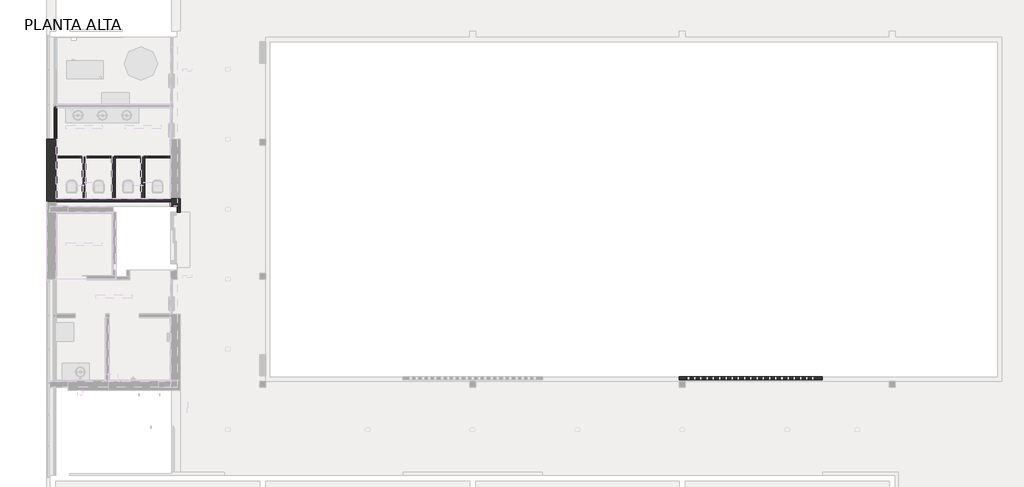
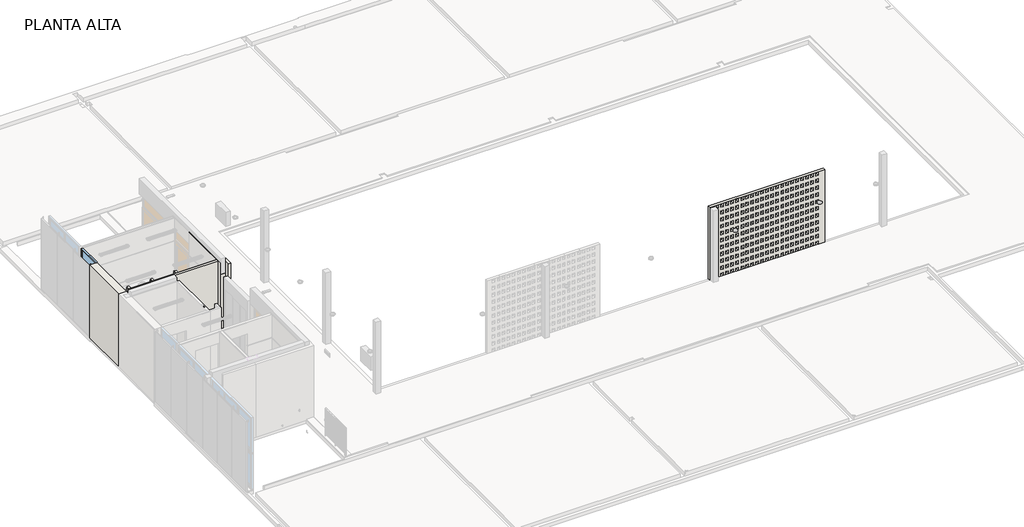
# One storey, part 4 of 14: 8 walls, 4 doors, 1 proxy, 1 window.
"""IFC4 building model written with IfcOpenShell, lengths in millimetres."""

from ifc_helpers import new_model, si_unit, frame, origin, place, context, project, spatial, polyline, outline, extrude, faceted_brep, transform, mapped, element, save
from components import a15_puerta_boxes_a15_puerta_boxes_85x150_d28bf8b2, a16_ventana_pc_1_hoja_a16_2_ventana_pc_1_hoja_105x310_39190f72

model = new_model("IFC4")

# Units and contexts
model_context = context("Model", 3, world=origin())
ifc_project = project(units=[si_unit("LENGTHUNIT", "METRE", prefix="MILLI")], contexts=[model_context])

# Site, building, storey
site = spatial("IfcSite", under=ifc_project)
building = spatial("IfcBuilding", under=site)
storey = spatial("IfcBuildingStorey", under=building, Name="PLANTA ALTA", Elevation=3310.0)

# Proxy
placement = place(None, origin())
element("IfcBuildingElementProxy", 1, Name="23-TEL-JUNTA 10x10", ObjectType="23-TEL-JUNTA 10x10", at=placement, inside=storey, context=model_context, shape_type="SweptSolid", body=[
    extrude(outline(polyline([(7148.7173694, 18270.2304035), (7158.7173694, 18270.2304035), (7158.7173694, 16310.2304035), (7148.7173694, 16310.2304035), (7148.7173694, 18270.2304035)])), frame((0.0, 0.0, 6400.0), z_axis=(0.0, 0.0, 1.0), x_axis=(1.0, 0.0, 0.0)), (0.0, 0.0, 1.0), 10.0),
    extrude(outline(polyline([(7153.7173694, 16320.2304035), (7153.7173694, 16310.2304035), (3398.7173694, 16310.2304035), (3408.7173694, 16320.2304035), (7153.7173694, 16320.2304035)])), frame((0.0, 0.0, 6400.0), z_axis=(0.0, 0.0, 1.0), x_axis=(1.0, 0.0, 0.0)), (0.0, 0.0, 1.0), 10.0),
])

# Doors
a15_puerta_boxes_a15_puerta_boxes_85x150_shape = a15_puerta_boxes_a15_puerta_boxes_85x150_d28bf8b2(model_context)
element("IfcDoor", 2, ObjectType="A15 Puerta boxes : A15 Puerta boxes 85x150", at=placement, inside=storey, context=model_context, shape_type="MappedRepresentation", body=[
    mapped(a15_puerta_boxes_a15_puerta_boxes_85x150_shape, transform((4796.2173694, 17682.7304035, 3610.0), x_axis=(1.0, 0.0, 0.0), y_axis=(0.0, 1.0, 0.0), z_axis=(0.0, 0.0, 1.0))),
])
element("IfcDoor", 3, ObjectType="A15 Puerta boxes : A15 Puerta boxes 85x150", at=placement, inside=storey, context=model_context, shape_type="MappedRepresentation", body=[
    mapped(a15_puerta_boxes_a15_puerta_boxes_85x150_shape, transform((5761.2173694, 17682.7304035, 3610.0), x_axis=(1.0, 0.0, 0.0), y_axis=(0.0, 1.0, 0.0), z_axis=(0.0, 0.0, 1.0))),
])
element("IfcDoor", 4, ObjectType="A15 Puerta boxes : A15 Puerta boxes 85x150", at=placement, inside=storey, context=model_context, shape_type="MappedRepresentation", body=[
    mapped(a15_puerta_boxes_a15_puerta_boxes_85x150_shape, transform((6726.2173694, 17682.7304035, 3610.0), x_axis=(1.0, 0.0, 0.0), y_axis=(0.0, 1.0, 0.0), z_axis=(0.0, 0.0, 1.0))),
])
element("IfcDoor", 5, ObjectType="A15 Puerta boxes : A15 Puerta boxes 85x150", at=placement, inside=storey, context=model_context, shape_type="MappedRepresentation", body=[
    mapped(a15_puerta_boxes_a15_puerta_boxes_85x150_shape, transform((3831.2173694, 17682.7304035, 3610.0), x_axis=(1.0, 0.0, 0.0), y_axis=(0.0, 1.0, 0.0), z_axis=(0.0, 0.0, 1.0))),
])

# Walls
element("IfcWall", 6, ObjectType="MURO-EXT/INT-M1c-33cm-hceram210cm-PET-circulacion", at=placement, inside=storey, context=model_context, shape_type="Brep", body=[
    faceted_brep([(3078.7173694, 18270.2304035, 3260.0), (3078.7173694, 16220.2304035, 3260.0), (3078.7173694, 16220.2304035, 6400.0), (3078.7173694, 16220.2304035, 6410.0), (3078.7173694, 18270.2304035, 6410.0), (3408.7173694, 16220.2304035, 3260.0), (3408.7173694, 16320.2304035, 3260.0), (3408.7173694, 18270.2304035, 3260.0), (3408.7173694, 18270.2304035, 5410.0), (3408.7173694, 16320.2304035, 5410.0), (3408.7173694, 16310.3304035, 5410.0), (3408.7173694, 16310.3304035, 5413.3), (3408.7173694, 16320.2304035, 5413.3), (3408.7173694, 18270.2304035, 5413.3), (3408.7173694, 18270.2304035, 6400.0), (3408.7173694, 16320.2304035, 6400.0), (3408.7173694, 16310.2304035, 6400.0), (3408.7173694, 16310.2304035, 6410.0), (3408.7173694, 16220.2304035, 6410.0), (3128.7173694, 18270.2304035, 3260.0), (3403.7173694, 16220.2304035, 3260.0), (3088.7173694, 16220.2304035, 6410.0), (3403.7173694, 16220.2304035, 6410.0), (3398.7173694, 16310.2304035, 6410.0), (3398.7173694, 18270.2304035, 6410.0), (3398.7173694, 18270.2304035, 6400.0), (3398.8173694, 18270.2304035, 5413.3), (3398.8173694, 18270.2304035, 5410.0), (3398.8173694, 16310.3304035, 5410.0), (3398.7173694, 16310.2304035, 6400.0), (3398.8173694, 16310.3304035, 5413.3)], [[[0, 1, 2, 3, 4]], [[5, 6, 7, 8, 9, 10, 11, 12, 13, 14, 15, 16, 17, 18]], [[1, 0, 19, 7, 6, 5, 20]], [[4, 3, 21, 22, 18, 17, 23, 24]], [[0, 4, 24, 25, 14, 13, 26, 27, 8, 7, 19]], [[3, 2, 1, 20, 5, 18, 22, 21]], [[8, 27, 28, 10, 9]], [[25, 29, 16, 15, 14]], [[29, 25, 24, 23]], [[29, 23, 17, 16]], [[28, 27, 26, 30]], [[30, 26, 13, 12, 11]], [[28, 30, 11, 10]]]),
])
element("IfcWall", 7, ObjectType="MURO-INT/INT-M22c-12cm-hceram210cm-PET", at=placement, inside=storey, context=model_context, shape_type="SweptSolid", body=[
    extrude(outline(polyline([(3713.8731174, 18890.2304035), (3713.8731174, 19310.2304035), (3833.8731174, 19310.2304035), (3833.8731174, 18890.2304035), (3713.8731174, 18890.2304035)])), frame((0.0, 0.0, 3270.0), z_axis=(0.0, 0.0, 1.0), x_axis=(1.0, 0.0, 0.0)), (0.0, 0.0, 1.0), 810.0),
])
element("IfcWall", 8, ObjectType="MURO-INT/INT-M22c-12cm-hceram210cm-PET", at=placement, inside=storey, context=model_context, shape_type="Brep", body=[
    faceted_brep([(4373.7173694, 16320.2304035, 3260.0), (4373.7173694, 17720.2304035, 3260.0), (4373.7173694, 17720.2304035, 3310.0), (4373.7173694, 17720.2304035, 5401.0), (4373.7173694, 17720.2304035, 5401.5), (4373.7173694, 17720.2304035, 5410.0), (4373.7173694, 16320.2304035, 5410.0), (4373.7173694, 16320.2304035, 5401.0), (4253.7173694, 17720.2304035, 3260.0), (4253.7173694, 16320.2304035, 3260.0), (4253.7173694, 16320.2304035, 5401.0), (4253.7173694, 16320.2304035, 5410.0), (4253.7173694, 17720.2304035, 5410.0), (4253.7173694, 17720.2304035, 5401.5), (4253.7173694, 17720.2304035, 5401.0), (4253.7173694, 17720.2304035, 3310.0), (4364.7173694, 16320.2304035, 5410.5), (4364.7173694, 17711.2304035, 5410.5), (4262.7173694, 17711.2304035, 5410.5), (4262.7173694, 16320.2304035, 5410.5), (4364.7173694, 16320.2304035, 5410.0), (4262.7173694, 16320.2304035, 5410.0), (4364.7173694, 17711.2304035, 5410.0), (4262.7173694, 17711.2304035, 5410.0)], [[[0, 1, 2, 3, 4, 5, 6, 7]], [[8, 9, 10, 11, 12, 13, 14, 15]], [[1, 0, 9, 8]], [[1, 8, 15, 14, 13, 12, 5, 4, 3, 2]], [[16, 17, 18, 19]], [[9, 0, 7, 6, 20, 16, 19, 21, 11, 10]], [[20, 22, 17, 16]], [[22, 20, 6, 5, 12, 11, 21, 23]], [[22, 23, 18, 17]], [[23, 21, 19, 18]]]),
])
element("IfcWall", 9, ObjectType="MURO-INT/INT-M22c-12cm-hceram210cm-PET", at=placement, inside=storey, context=model_context, shape_type="Brep", body=[
    faceted_brep([(5338.7173694, 16320.2304035, 3260.0), (5338.7173694, 17720.2304035, 3260.0), (5338.7173694, 17720.2304035, 3310.0), (5338.7173694, 17720.2304035, 5401.0), (5338.7173694, 17720.2304035, 5401.5), (5338.7173694, 17720.2304035, 5410.0), (5338.7173694, 16320.2304035, 5410.0), (5338.7173694, 16320.2304035, 5401.0), (5218.7173694, 17720.2304035, 3260.0), (5218.7173694, 16320.2304035, 3260.0), (5218.7173694, 16320.2304035, 5401.0), (5218.7173694, 16320.2304035, 5410.0), (5218.7173694, 17720.2304035, 5410.0), (5218.7173694, 17720.2304035, 5401.5), (5218.7173694, 17720.2304035, 5401.0), (5218.7173694, 17720.2304035, 3310.0), (5329.7173694, 16320.2304035, 5410.5), (5329.7173694, 17711.2304035, 5410.5), (5227.7173694, 17711.2304035, 5410.5), (5227.7173694, 16320.2304035, 5410.5), (5329.7173694, 16320.2304035, 5410.0), (5227.7173694, 16320.2304035, 5410.0), (5329.7173694, 17711.2304035, 5410.0), (5227.7173694, 17711.2304035, 5410.0)], [[[0, 1, 2, 3, 4, 5, 6, 7]], [[8, 9, 10, 11, 12, 13, 14, 15]], [[1, 0, 9, 8]], [[1, 8, 15, 14, 13, 12, 5, 4, 3, 2]], [[16, 17, 18, 19]], [[9, 0, 7, 6, 20, 16, 19, 21, 11, 10]], [[20, 22, 17, 16]], [[22, 20, 6, 5, 12, 11, 21, 23]], [[22, 23, 18, 17]], [[23, 21, 19, 18]]]),
])
element("IfcWall", 10, ObjectType="MURO-INT/INT-M22c-12cm-hceram210cm-PET", at=placement, inside=storey, context=model_context, shape_type="Brep", body=[
    faceted_brep([(6303.7173694, 16320.2304035, 3260.0), (6303.7173694, 17720.2304035, 3260.0), (6303.7173694, 17720.2304035, 3310.0), (6303.7173694, 17720.2304035, 5401.0), (6303.7173694, 17720.2304035, 5401.5), (6303.7173694, 17720.2304035, 5410.0), (6303.7173694, 16320.2304035, 5410.0), (6303.7173694, 16320.2304035, 5401.0), (6183.7173694, 17720.2304035, 3260.0), (6183.7173694, 16320.2304035, 3260.0), (6183.7173694, 16320.2304035, 5401.0), (6183.7173694, 16320.2304035, 5410.0), (6183.7173694, 17720.2304035, 5410.0), (6183.7173694, 17720.2304035, 5401.5), (6183.7173694, 17720.2304035, 5401.0), (6183.7173694, 17720.2304035, 3310.0), (6294.7173694, 16320.2304035, 5410.5), (6294.7173694, 17711.2304035, 5410.5), (6192.7173694, 17711.2304035, 5410.5), (6192.7173694, 16320.2304035, 5410.5), (6294.7173694, 16320.2304035, 5410.0), (6192.7173694, 16320.2304035, 5410.0), (6294.7173694, 17711.2304035, 5410.0), (6192.7173694, 17711.2304035, 5410.0)], [[[0, 1, 2, 3, 4, 5, 6, 7]], [[8, 9, 10, 11, 12, 13, 14, 15]], [[1, 0, 9, 8]], [[1, 8, 15, 14, 13, 12, 5, 4, 3, 2]], [[16, 17, 18, 19]], [[9, 0, 7, 6, 20, 16, 19, 21, 11, 10]], [[20, 22, 17, 16]], [[22, 20, 6, 5, 12, 11, 21, 23]], [[22, 23, 18, 17]], [[23, 21, 19, 18]]]),
])
element("IfcWall", 11, ObjectType="MURO-INT/INT-M22d-10cm-hceram210cm-PET", at=placement, inside=storey, context=model_context, shape_type="Brep", body=[
    faceted_brep([(7153.7173694, 16320.2304035, 3260.0), (6303.7173694, 16320.2304035, 3260.0), (6183.7173694, 16320.2304035, 3260.0), (5338.7173694, 16320.2304035, 3260.0), (5218.7173694, 16320.2304035, 3260.0), (4373.7173694, 16320.2304035, 3260.0), (4253.7173694, 16320.2304035, 3260.0), (3408.7173694, 16320.2304035, 3260.0), (3408.7173694, 16320.2304035, 5410.0), (4253.7173694, 16320.2304035, 5410.0), (4262.7173694, 16320.2304035, 5410.0), (4364.7173694, 16320.2304035, 5410.0), (4373.7173694, 16320.2304035, 5410.0), (5218.7173694, 16320.2304035, 5410.0), (5227.7173694, 16320.2304035, 5410.0), (5329.7173694, 16320.2304035, 5410.0), (5338.7173694, 16320.2304035, 5410.0), (6183.7173694, 16320.2304035, 5410.0), (6192.7173694, 16320.2304035, 5410.0), (6294.7173694, 16320.2304035, 5410.0), (6303.7173694, 16320.2304035, 5410.0), (7153.7173694, 16320.2304035, 5410.0), (3408.7173694, 16320.2304035, 6400.0), (7153.7173694, 16320.2304035, 6400.0), (7153.7173694, 16320.2304035, 5413.3), (3408.7173694, 16320.2304035, 5413.3), (3408.7173694, 16220.2304035, 3260.0), (7153.7173694, 16220.2304035, 3260.0), (7153.7173694, 16220.2304035, 6410.0), (3408.7173694, 16220.2304035, 6410.0), (7153.7173694, 16310.2304035, 6410.0), (3408.7173694, 16310.2304035, 6410.0), (7153.7173694, 16310.3304035, 5410.0), (7153.7173694, 16310.3304035, 5413.3), (7153.7173694, 16310.2304035, 6400.0), (3408.7173694, 16310.2304035, 6400.0), (3408.7173694, 16310.3304035, 5413.3), (3408.7173694, 16310.3304035, 5410.0)], [[[0, 1, 2, 3, 4, 5, 6, 7, 8, 9, 10, 11, 12, 13, 14, 15, 16, 17, 18, 19, 20, 21]], [[22, 23, 24, 25]], [[26, 27, 28, 29]], [[7, 6, 5, 4, 3, 2, 1, 0, 27, 26]], [[29, 28, 30, 31]], [[28, 27, 0, 21, 32, 33, 24, 23, 34, 30]], [[7, 26, 29, 31, 35, 22, 25, 36, 37, 8]], [[30, 34, 35, 31]], [[23, 22, 35, 34]], [[33, 36, 25, 24]], [[36, 33, 32, 37]], [[37, 32, 21, 20, 19, 18, 17, 16, 15, 14, 13, 12, 11, 10, 9, 8]]]),
])
element("IfcWall", 12, ObjectType="MURO-Ladrillo hormigón calado-10cm-PET", at=placement, inside=storey, context=model_context, shape_type="SweptSolid", body=[
    extrude(outline(polyline([(3260.0, 28588.7173693), (6410.0, 28588.7173693), (6410.0, 23888.7173694), (3260.0, 23888.7173694), (3260.0, 28588.7173693)]), holes=[polyline([(6400.0, 28228.7173696), (6400.0, 28328.7173699), (6260.0, 28328.7173699), (6260.0, 28228.7173696), (6400.0, 28228.7173696)]), polyline([(6400.0, 28028.7173694), (6400.0, 28128.7173696), (6260.0, 28128.7173696), (6260.0, 28028.7173694), (6400.0, 28028.7173694)]), polyline([(6400.0, 27823.7173694), (6400.0, 27923.7173697), (6260.0, 27923.7173697), (6260.0, 27823.7173694), (6400.0, 27823.7173694)]), polyline([(6400.0, 27623.7173692), (6400.0, 27723.7173694), (6260.0, 27723.7173694), (6260.0, 27623.7173692), (6400.0, 27623.7173692)]), polyline([(6400.0, 27413.7173694), (6400.0, 27513.7173697), (6260.0, 27513.7173697), (6260.0, 27413.7173694), (6400.0, 27413.7173694)]), polyline([(6400.0, 27213.7173692), (6400.0, 27313.7173694), (6260.0, 27313.7173694), (6260.0, 27213.7173692), (6400.0, 27213.7173692)]), polyline([(6400.0, 27008.7173692), (6400.0, 27108.7173694), (6260.0, 27108.7173694), (6260.0, 27008.7173692), (6400.0, 27008.7173692)]), polyline([(6400.0, 26808.717369), (6400.0, 26908.7173692), (6260.0, 26908.7173692), (6260.0, 26808.717369), (6400.0, 26808.717369)]), polyline([(6400.0, 26593.7173695), (6400.0, 26693.7173697), (6260.0, 26693.7173697), (6260.0, 26593.7173695), (6400.0, 26593.7173695)]), polyline([(6400.0, 26393.7173692), (6400.0, 26493.7173695), (6260.0, 26493.7173695), (6260.0, 26393.7173692), (6400.0, 26393.7173692)]), polyline([(6400.0, 26188.7173692), (6400.0, 26288.7173695), (6260.0, 26288.7173695), (6260.0, 26188.7173692), (6400.0, 26188.7173692)]), polyline([(6400.0, 25988.717369), (6400.0, 26088.7173692), (6260.0, 26088.7173692), (6260.0, 25988.717369), (6400.0, 25988.717369)]), polyline([(6400.0, 25778.7173693), (6400.0, 25878.7173695), (6260.0, 25878.7173695), (6260.0, 25778.7173693), (6400.0, 25778.7173693)]), polyline([(6400.0, 25578.717369), (6400.0, 25678.7173693), (6260.0, 25678.7173693), (6260.0, 25578.717369), (6400.0, 25578.717369)]), polyline([(6400.0, 25373.717369), (6400.0, 25473.7173693), (6260.0, 25473.7173693), (6260.0, 25373.717369), (6400.0, 25373.717369)]), polyline([(6400.0, 25173.7173688), (6400.0, 25273.717369), (6260.0, 25273.717369), (6260.0, 25173.7173688), (6400.0, 25173.7173688)]), polyline([(6400.0, 24953.7173695), (6400.0, 25053.7173697), (6260.0, 25053.7173697), (6260.0, 24953.7173695), (6400.0, 24953.7173695)]), polyline([(6400.0, 24753.7173693), (6400.0, 24853.7173695), (6260.0, 24853.7173695), (6260.0, 24753.7173693), (6400.0, 24753.7173693)]), polyline([(6400.0, 24548.7173693), (6400.0, 24648.7173695), (6260.0, 24648.7173695), (6260.0, 24548.7173693), (6400.0, 24548.7173693)]), polyline([(6400.0, 24348.7173691), (6400.0, 24448.7173693), (6260.0, 24448.7173693), (6260.0, 24348.7173691), (6400.0, 24348.7173691)]), polyline([(6400.0, 24138.7173693), (6400.0, 24238.7173695), (6260.0, 24238.7173695), (6260.0, 24138.7173693), (6400.0, 24138.7173693)]), polyline([(6100.0, 28228.7173696), (6100.0, 28328.7173699), (5960.0, 28328.7173699), (5960.0, 28228.7173696), (6100.0, 28228.7173696)]), polyline([(6100.0, 28028.7173694), (6100.0, 28128.7173696), (5960.0, 28128.7173696), (5960.0, 28028.7173694), (6100.0, 28028.7173694)]), polyline([(6100.0, 27823.7173694), (6100.0, 27923.7173697), (5960.0, 27923.7173697), (5960.0, 27823.7173694), (6100.0, 27823.7173694)]), polyline([(6100.0, 27623.7173692), (6100.0, 27723.7173694), (5960.0, 27723.7173694), (5960.0, 27623.7173692), (6100.0, 27623.7173692)]), polyline([(6100.0, 27413.7173694), (6100.0, 27513.7173697), (5960.0, 27513.7173697), (5960.0, 27413.7173694), (6100.0, 27413.7173694)]), polyline([(6100.0, 27213.7173692), (6100.0, 27313.7173694), (5960.0, 27313.7173694), (5960.0, 27213.7173692), (6100.0, 27213.7173692)]), polyline([(6100.0, 27008.7173692), (6100.0, 27108.7173694), (5960.0, 27108.7173694), (5960.0, 27008.7173692), (6100.0, 27008.7173692)]), polyline([(6100.0, 26808.717369), (6100.0, 26908.7173692), (5960.0, 26908.7173692), (5960.0, 26808.717369), (6100.0, 26808.717369)]), polyline([(6100.0, 26593.7173695), (6100.0, 26693.7173697), (5960.0, 26693.7173697), (5960.0, 26593.7173695), (6100.0, 26593.7173695)]), polyline([(6100.0, 26393.7173692), (6100.0, 26493.7173695), (5960.0, 26493.7173695), (5960.0, 26393.7173692), (6100.0, 26393.7173692)]), polyline([(6100.0, 26188.7173692), (6100.0, 26288.7173695), (5960.0, 26288.7173695), (5960.0, 26188.7173692), (6100.0, 26188.7173692)]), polyline([(6100.0, 25988.717369), (6100.0, 26088.7173692), (5960.0, 26088.7173692), (5960.0, 25988.717369), (6100.0, 25988.717369)]), polyline([(6100.0, 25778.7173693), (6100.0, 25878.7173695), (5960.0, 25878.7173695), (5960.0, 25778.7173693), (6100.0, 25778.7173693)]), polyline([(6100.0, 25578.717369), (6100.0, 25678.7173693), (5960.0, 25678.7173693), (5960.0, 25578.717369), (6100.0, 25578.717369)]), polyline([(6100.0, 25373.717369), (6100.0, 25473.7173693), (5960.0, 25473.7173693), (5960.0, 25373.717369), (6100.0, 25373.717369)]), polyline([(6100.0, 25173.7173688), (6100.0, 25273.717369), (5960.0, 25273.717369), (5960.0, 25173.7173688), (6100.0, 25173.7173688)]), polyline([(6100.0, 24953.7173695), (6100.0, 25053.7173697), (5960.0, 25053.7173697), (5960.0, 24953.7173695), (6100.0, 24953.7173695)]), polyline([(6100.0, 24753.7173693), (6100.0, 24853.7173695), (5960.0, 24853.7173695), (5960.0, 24753.7173693), (6100.0, 24753.7173693)]), polyline([(6100.0, 24548.7173693), (6100.0, 24648.7173695), (5960.0, 24648.7173695), (5960.0, 24548.7173693), (6100.0, 24548.7173693)]), polyline([(6100.0, 24348.7173691), (6100.0, 24448.7173693), (5960.0, 24448.7173693), (5960.0, 24348.7173691), (6100.0, 24348.7173691)]), polyline([(6100.0, 24138.7173693), (6100.0, 24238.7173695), (5960.0, 24238.7173695), (5960.0, 24138.7173693), (6100.0, 24138.7173693)]), polyline([(5800.0, 28228.7173696), (5800.0, 28328.7173699), (5660.0, 28328.7173699), (5660.0, 28228.7173696), (5800.0, 28228.7173696)]), polyline([(5800.0, 28028.7173694), (5800.0, 28128.7173696), (5660.0, 28128.7173696), (5660.0, 28028.7173694), (5800.0, 28028.7173694)]), polyline([(5800.0, 27823.7173694), (5800.0, 27923.7173697), (5660.0, 27923.7173697), (5660.0, 27823.7173694), (5800.0, 27823.7173694)]), polyline([(5800.0, 27623.7173692), (5800.0, 27723.7173694), (5660.0, 27723.7173694), (5660.0, 27623.7173692), (5800.0, 27623.7173692)]), polyline([(5800.0, 27413.7173694), (5800.0, 27513.7173697), (5660.0, 27513.7173697), (5660.0, 27413.7173694), (5800.0, 27413.7173694)]), polyline([(5800.0, 27213.7173692), (5800.0, 27313.7173694), (5660.0, 27313.7173694), (5660.0, 27213.7173692), (5800.0, 27213.7173692)]), polyline([(5800.0, 27008.7173692), (5800.0, 27108.7173694), (5660.0, 27108.7173694), (5660.0, 27008.7173692), (5800.0, 27008.7173692)]), polyline([(5800.0, 26808.717369), (5800.0, 26908.7173692), (5660.0, 26908.7173692), (5660.0, 26808.717369), (5800.0, 26808.717369)]), polyline([(5800.0, 26593.7173695), (5800.0, 26693.7173697), (5660.0, 26693.7173697), (5660.0, 26593.7173695), (5800.0, 26593.7173695)]), polyline([(5800.0, 26393.7173692), (5800.0, 26493.7173695), (5660.0, 26493.7173695), (5660.0, 26393.7173692), (5800.0, 26393.7173692)]), polyline([(5800.0, 26188.7173692), (5800.0, 26288.7173695), (5660.0, 26288.7173695), (5660.0, 26188.7173692), (5800.0, 26188.7173692)]), polyline([(5800.0, 25988.717369), (5800.0, 26088.7173692), (5660.0, 26088.7173692), (5660.0, 25988.717369), (5800.0, 25988.717369)]), polyline([(5800.0, 25778.7173693), (5800.0, 25878.7173695), (5660.0, 25878.7173695), (5660.0, 25778.7173693), (5800.0, 25778.7173693)]), polyline([(5800.0, 25578.717369), (5800.0, 25678.7173693), (5660.0, 25678.7173693), (5660.0, 25578.717369), (5800.0, 25578.717369)]), polyline([(5800.0, 25373.717369), (5800.0, 25473.7173693), (5660.0, 25473.7173693), (5660.0, 25373.717369), (5800.0, 25373.717369)]), polyline([(5800.0, 25173.7173688), (5800.0, 25273.717369), (5660.0, 25273.717369), (5660.0, 25173.7173688), (5800.0, 25173.7173688)]), polyline([(5800.0, 24953.7173695), (5800.0, 25053.7173697), (5660.0, 25053.7173697), (5660.0, 24953.7173695), (5800.0, 24953.7173695)]), polyline([(5800.0, 24753.7173693), (5800.0, 24853.7173695), (5660.0, 24853.7173695), (5660.0, 24753.7173693), (5800.0, 24753.7173693)]), polyline([(5800.0, 24548.7173693), (5800.0, 24648.7173695), (5660.0, 24648.7173695), (5660.0, 24548.7173693), (5800.0, 24548.7173693)]), polyline([(5800.0, 24348.7173691), (5800.0, 24448.7173693), (5660.0, 24448.7173693), (5660.0, 24348.7173691), (5800.0, 24348.7173691)]), polyline([(5800.0, 24138.7173693), (5800.0, 24238.7173695), (5660.0, 24238.7173695), (5660.0, 24138.7173693), (5800.0, 24138.7173693)]), polyline([(5500.0, 28228.7173696), (5500.0, 28328.7173699), (5360.0, 28328.7173699), (5360.0, 28228.7173696), (5500.0, 28228.7173696)]), polyline([(5500.0, 28028.7173694), (5500.0, 28128.7173696), (5360.0, 28128.7173696), (5360.0, 28028.7173694), (5500.0, 28028.7173694)]), polyline([(5500.0, 27823.7173694), (5500.0, 27923.7173697), (5360.0, 27923.7173697), (5360.0, 27823.7173694), (5500.0, 27823.7173694)]), polyline([(5500.0, 27623.7173692), (5500.0, 27723.7173694), (5360.0, 27723.7173694), (5360.0, 27623.7173692), (5500.0, 27623.7173692)]), polyline([(5500.0, 27413.7173694), (5500.0, 27513.7173697), (5360.0, 27513.7173697), (5360.0, 27413.7173694), (5500.0, 27413.7173694)]), polyline([(5500.0, 27213.7173692), (5500.0, 27313.7173694), (5360.0, 27313.7173694), (5360.0, 27213.7173692), (5500.0, 27213.7173692)]), polyline([(5500.0, 27008.7173692), (5500.0, 27108.7173694), (5360.0, 27108.7173694), (5360.0, 27008.7173692), (5500.0, 27008.7173692)]), polyline([(5500.0, 26808.717369), (5500.0, 26908.7173692), (5360.0, 26908.7173692), (5360.0, 26808.717369), (5500.0, 26808.717369)]), polyline([(5500.0, 26593.7173695), (5500.0, 26693.7173697), (5360.0, 26693.7173697), (5360.0, 26593.7173695), (5500.0, 26593.7173695)]), polyline([(5500.0, 26393.7173692), (5500.0, 26493.7173695), (5360.0, 26493.7173695), (5360.0, 26393.7173692), (5500.0, 26393.7173692)]), polyline([(5500.0, 26188.7173692), (5500.0, 26288.7173695), (5360.0, 26288.7173695), (5360.0, 26188.7173692), (5500.0, 26188.7173692)]), polyline([(5500.0, 25988.717369), (5500.0, 26088.7173692), (5360.0, 26088.7173692), (5360.0, 25988.717369), (5500.0, 25988.717369)]), polyline([(5500.0, 25778.7173693), (5500.0, 25878.7173695), (5360.0, 25878.7173695), (5360.0, 25778.7173693), (5500.0, 25778.7173693)]), polyline([(5500.0, 25578.717369), (5500.0, 25678.7173693), (5360.0, 25678.7173693), (5360.0, 25578.717369), (5500.0, 25578.717369)]), polyline([(5500.0, 25373.717369), (5500.0, 25473.7173693), (5360.0, 25473.7173693), (5360.0, 25373.717369), (5500.0, 25373.717369)]), polyline([(5500.0, 25173.7173688), (5500.0, 25273.717369), (5360.0, 25273.717369), (5360.0, 25173.7173688), (5500.0, 25173.7173688)]), polyline([(5500.0, 24953.7173695), (5500.0, 25053.7173697), (5360.0, 25053.7173697), (5360.0, 24953.7173695), (5500.0, 24953.7173695)]), polyline([(5500.0, 24753.7173693), (5500.0, 24853.7173695), (5360.0, 24853.7173695), (5360.0, 24753.7173693), (5500.0, 24753.7173693)]), polyline([(5500.0, 24548.7173693), (5500.0, 24648.7173695), (5360.0, 24648.7173695), (5360.0, 24548.7173693), (5500.0, 24548.7173693)]), polyline([(5500.0, 24348.7173691), (5500.0, 24448.7173693), (5360.0, 24448.7173693), (5360.0, 24348.7173691), (5500.0, 24348.7173691)]), polyline([(5500.0, 24138.7173693), (5500.0, 24238.7173695), (5360.0, 24238.7173695), (5360.0, 24138.7173693), (5500.0, 24138.7173693)]), polyline([(5200.0, 28228.7173696), (5200.0, 28328.7173699), (5060.0, 28328.7173699), (5060.0, 28228.7173696), (5200.0, 28228.7173696)]), polyline([(5200.0, 28028.7173694), (5200.0, 28128.7173696), (5060.0, 28128.7173696), (5060.0, 28028.7173694), (5200.0, 28028.7173694)]), polyline([(5200.0, 27823.7173694), (5200.0, 27923.7173697), (5060.0, 27923.7173697), (5060.0, 27823.7173694), (5200.0, 27823.7173694)]), polyline([(5200.0, 27623.7173692), (5200.0, 27723.7173694), (5060.0, 27723.7173694), (5060.0, 27623.7173692), (5200.0, 27623.7173692)]), polyline([(5200.0, 27413.7173694), (5200.0, 27513.7173697), (5060.0, 27513.7173697), (5060.0, 27413.7173694), (5200.0, 27413.7173694)]), polyline([(5200.0, 27213.7173692), (5200.0, 27313.7173694), (5060.0, 27313.7173694), (5060.0, 27213.7173692), (5200.0, 27213.7173692)]), polyline([(5200.0, 27008.7173692), (5200.0, 27108.7173694), (5060.0, 27108.7173694), (5060.0, 27008.7173692), (5200.0, 27008.7173692)]), polyline([(5200.0, 26808.717369), (5200.0, 26908.7173692), (5060.0, 26908.7173692), (5060.0, 26808.717369), (5200.0, 26808.717369)]), polyline([(5200.0, 26593.7173695), (5200.0, 26693.7173697), (5060.0, 26693.7173697), (5060.0, 26593.7173695), (5200.0, 26593.7173695)]), polyline([(5200.0, 26393.7173692), (5200.0, 26493.7173695), (5060.0, 26493.7173695), (5060.0, 26393.7173692), (5200.0, 26393.7173692)]), polyline([(5200.0, 26188.7173692), (5200.0, 26288.7173695), (5060.0, 26288.7173695), (5060.0, 26188.7173692), (5200.0, 26188.7173692)]), polyline([(5200.0, 25988.717369), (5200.0, 26088.7173692), (5060.0, 26088.7173692), (5060.0, 25988.717369), (5200.0, 25988.717369)]), polyline([(5200.0, 25778.7173693), (5200.0, 25878.7173695), (5060.0, 25878.7173695), (5060.0, 25778.7173693), (5200.0, 25778.7173693)]), polyline([(5200.0, 25578.717369), (5200.0, 25678.7173693), (5060.0, 25678.7173693), (5060.0, 25578.717369), (5200.0, 25578.717369)]), polyline([(5200.0, 25373.717369), (5200.0, 25473.7173693), (5060.0, 25473.7173693), (5060.0, 25373.717369), (5200.0, 25373.717369)]), polyline([(5200.0, 25173.7173688), (5200.0, 25273.717369), (5060.0, 25273.717369), (5060.0, 25173.7173688), (5200.0, 25173.7173688)]), polyline([(5200.0, 24953.7173695), (5200.0, 25053.7173697), (5060.0, 25053.7173697), (5060.0, 24953.7173695), (5200.0, 24953.7173695)]), polyline([(5200.0, 24753.7173693), (5200.0, 24853.7173695), (5060.0, 24853.7173695), (5060.0, 24753.7173693), (5200.0, 24753.7173693)]), polyline([(5200.0, 24548.7173693), (5200.0, 24648.7173695), (5060.0, 24648.7173695), (5060.0, 24548.7173693), (5200.0, 24548.7173693)]), polyline([(5200.0, 24348.7173691), (5200.0, 24448.7173693), (5060.0, 24448.7173693), (5060.0, 24348.7173691), (5200.0, 24348.7173691)]), polyline([(5200.0, 24138.7173693), (5200.0, 24238.7173695), (5060.0, 24238.7173695), (5060.0, 24138.7173693), (5200.0, 24138.7173693)]), polyline([(4900.0, 28228.7173696), (4900.0, 28328.7173699), (4760.0, 28328.7173699), (4760.0, 28228.7173696), (4900.0, 28228.7173696)]), polyline([(4900.0, 28028.7173694), (4900.0, 28128.7173696), (4760.0, 28128.7173696), (4760.0, 28028.7173694), (4900.0, 28028.7173694)]), polyline([(4900.0, 27823.7173694), (4900.0, 27923.7173697), (4760.0, 27923.7173697), (4760.0, 27823.7173694), (4900.0, 27823.7173694)]), polyline([(4900.0, 27623.7173692), (4900.0, 27723.7173694), (4760.0, 27723.7173694), (4760.0, 27623.7173692), (4900.0, 27623.7173692)]), polyline([(4900.0, 27413.7173694), (4900.0, 27513.7173697), (4760.0, 27513.7173697), (4760.0, 27413.7173694), (4900.0, 27413.7173694)]), polyline([(4900.0, 27213.7173692), (4900.0, 27313.7173694), (4760.0, 27313.7173694), (4760.0, 27213.7173692), (4900.0, 27213.7173692)]), polyline([(4900.0, 27008.7173692), (4900.0, 27108.7173694), (4760.0, 27108.7173694), (4760.0, 27008.7173692), (4900.0, 27008.7173692)]), polyline([(4900.0, 26808.717369), (4900.0, 26908.7173692), (4760.0, 26908.7173692), (4760.0, 26808.717369), (4900.0, 26808.717369)]), polyline([(4900.0, 26593.7173695), (4900.0, 26693.7173697), (4760.0, 26693.7173697), (4760.0, 26593.7173695), (4900.0, 26593.7173695)]), polyline([(4900.0, 26393.7173692), (4900.0, 26493.7173695), (4760.0, 26493.7173695), (4760.0, 26393.7173692), (4900.0, 26393.7173692)]), polyline([(4900.0, 26188.7173692), (4900.0, 26288.7173695), (4760.0, 26288.7173695), (4760.0, 26188.7173692), (4900.0, 26188.7173692)]), polyline([(4900.0, 25988.717369), (4900.0, 26088.7173692), (4760.0, 26088.7173692), (4760.0, 25988.717369), (4900.0, 25988.717369)]), polyline([(4900.0, 25778.7173693), (4900.0, 25878.7173695), (4760.0, 25878.7173695), (4760.0, 25778.7173693), (4900.0, 25778.7173693)]), polyline([(4900.0, 25578.717369), (4900.0, 25678.7173693), (4760.0, 25678.7173693), (4760.0, 25578.717369), (4900.0, 25578.717369)]), polyline([(4900.0, 25373.717369), (4900.0, 25473.7173693), (4760.0, 25473.7173693), (4760.0, 25373.717369), (4900.0, 25373.717369)]), polyline([(4900.0, 25173.7173688), (4900.0, 25273.717369), (4760.0, 25273.717369), (4760.0, 25173.7173688), (4900.0, 25173.7173688)]), polyline([(4900.0, 24953.7173695), (4900.0, 25053.7173697), (4760.0, 25053.7173697), (4760.0, 24953.7173695), (4900.0, 24953.7173695)]), polyline([(4900.0, 24753.7173693), (4900.0, 24853.7173695), (4760.0, 24853.7173695), (4760.0, 24753.7173693), (4900.0, 24753.7173693)]), polyline([(4900.0, 24548.7173693), (4900.0, 24648.7173695), (4760.0, 24648.7173695), (4760.0, 24548.7173693), (4900.0, 24548.7173693)]), polyline([(4900.0, 24348.7173691), (4900.0, 24448.7173693), (4760.0, 24448.7173693), (4760.0, 24348.7173691), (4900.0, 24348.7173691)]), polyline([(4900.0, 24138.7173693), (4900.0, 24238.7173695), (4760.0, 24238.7173695), (4760.0, 24138.7173693), (4900.0, 24138.7173693)]), polyline([(4600.0, 28228.7173696), (4600.0, 28328.7173699), (4460.0, 28328.7173699), (4460.0, 28228.7173696), (4600.0, 28228.7173696)]), polyline([(4600.0, 28028.7173694), (4600.0, 28128.7173696), (4460.0, 28128.7173696), (4460.0, 28028.7173694), (4600.0, 28028.7173694)]), polyline([(4600.0, 27823.7173694), (4600.0, 27923.7173697), (4460.0, 27923.7173697), (4460.0, 27823.7173694), (4600.0, 27823.7173694)]), polyline([(4600.0, 27623.7173692), (4600.0, 27723.7173694), (4460.0, 27723.7173694), (4460.0, 27623.7173692), (4600.0, 27623.7173692)]), polyline([(4600.0, 27413.7173694), (4600.0, 27513.7173697), (4460.0, 27513.7173697), (4460.0, 27413.7173694), (4600.0, 27413.7173694)]), polyline([(4600.0, 27213.7173692), (4600.0, 27313.7173694), (4460.0, 27313.7173694), (4460.0, 27213.7173692), (4600.0, 27213.7173692)]), polyline([(4600.0, 27008.7173692), (4600.0, 27108.7173694), (4460.0, 27108.7173694), (4460.0, 27008.7173692), (4600.0, 27008.7173692)]), polyline([(4600.0, 26808.717369), (4600.0, 26908.7173692), (4460.0, 26908.7173692), (4460.0, 26808.717369), (4600.0, 26808.717369)]), polyline([(4600.0, 26593.7173695), (4600.0, 26693.7173697), (4460.0, 26693.7173697), (4460.0, 26593.7173695), (4600.0, 26593.7173695)]), polyline([(4600.0, 26393.7173692), (4600.0, 26493.7173695), (4460.0, 26493.7173695), (4460.0, 26393.7173692), (4600.0, 26393.7173692)]), polyline([(4600.0, 26188.7173692), (4600.0, 26288.7173695), (4460.0, 26288.7173695), (4460.0, 26188.7173692), (4600.0, 26188.7173692)]), polyline([(4600.0, 25988.717369), (4600.0, 26088.7173692), (4460.0, 26088.7173692), (4460.0, 25988.717369), (4600.0, 25988.717369)]), polyline([(4600.0, 25778.7173693), (4600.0, 25878.7173695), (4460.0, 25878.7173695), (4460.0, 25778.7173693), (4600.0, 25778.7173693)]), polyline([(4600.0, 25578.717369), (4600.0, 25678.7173693), (4460.0, 25678.7173693), (4460.0, 25578.717369), (4600.0, 25578.717369)]), polyline([(4600.0, 25373.717369), (4600.0, 25473.7173693), (4460.0, 25473.7173693), (4460.0, 25373.717369), (4600.0, 25373.717369)]), polyline([(4600.0, 25173.7173688), (4600.0, 25273.717369), (4460.0, 25273.717369), (4460.0, 25173.7173688), (4600.0, 25173.7173688)]), polyline([(4600.0, 24953.7173695), (4600.0, 25053.7173697), (4460.0, 25053.7173697), (4460.0, 24953.7173695), (4600.0, 24953.7173695)]), polyline([(4600.0, 24753.7173693), (4600.0, 24853.7173695), (4460.0, 24853.7173695), (4460.0, 24753.7173693), (4600.0, 24753.7173693)]), polyline([(4600.0, 24548.7173693), (4600.0, 24648.7173695), (4460.0, 24648.7173695), (4460.0, 24548.7173693), (4600.0, 24548.7173693)]), polyline([(4600.0, 24348.7173691), (4600.0, 24448.7173693), (4460.0, 24448.7173693), (4460.0, 24348.7173691), (4600.0, 24348.7173691)]), polyline([(4600.0, 24138.7173693), (4600.0, 24238.7173695), (4460.0, 24238.7173695), (4460.0, 24138.7173693), (4600.0, 24138.7173693)]), polyline([(4300.0, 28228.7173696), (4300.0, 28328.7173699), (4160.0, 28328.7173699), (4160.0, 28228.7173696), (4300.0, 28228.7173696)]), polyline([(4300.0, 28028.7173694), (4300.0, 28128.7173696), (4160.0, 28128.7173696), (4160.0, 28028.7173694), (4300.0, 28028.7173694)]), polyline([(4300.0, 27823.7173694), (4300.0, 27923.7173697), (4160.0, 27923.7173697), (4160.0, 27823.7173694), (4300.0, 27823.7173694)]), polyline([(4300.0, 27623.7173692), (4300.0, 27723.7173694), (4160.0, 27723.7173694), (4160.0, 27623.7173692), (4300.0, 27623.7173692)]), polyline([(4300.0, 27413.7173694), (4300.0, 27513.7173697), (4160.0, 27513.7173697), (4160.0, 27413.7173694), (4300.0, 27413.7173694)]), polyline([(4300.0, 27213.7173692), (4300.0, 27313.7173694), (4160.0, 27313.7173694), (4160.0, 27213.7173692), (4300.0, 27213.7173692)]), polyline([(4300.0, 27008.7173692), (4300.0, 27108.7173694), (4160.0, 27108.7173694), (4160.0, 27008.7173692), (4300.0, 27008.7173692)]), polyline([(4300.0, 26808.717369), (4300.0, 26908.7173692), (4160.0, 26908.7173692), (4160.0, 26808.717369), (4300.0, 26808.717369)]), polyline([(4300.0, 26593.7173695), (4300.0, 26693.7173697), (4160.0, 26693.7173697), (4160.0, 26593.7173695), (4300.0, 26593.7173695)]), polyline([(4300.0, 26393.7173692), (4300.0, 26493.7173695), (4160.0, 26493.7173695), (4160.0, 26393.7173692), (4300.0, 26393.7173692)]), polyline([(4300.0, 26188.7173692), (4300.0, 26288.7173695), (4160.0, 26288.7173695), (4160.0, 26188.7173692), (4300.0, 26188.7173692)]), polyline([(4300.0, 25988.717369), (4300.0, 26088.7173692), (4160.0, 26088.7173692), (4160.0, 25988.717369), (4300.0, 25988.717369)]), polyline([(4300.0, 25778.7173693), (4300.0, 25878.7173695), (4160.0, 25878.7173695), (4160.0, 25778.7173693), (4300.0, 25778.7173693)]), polyline([(4300.0, 25578.717369), (4300.0, 25678.7173693), (4160.0, 25678.7173693), (4160.0, 25578.717369), (4300.0, 25578.717369)]), polyline([(4300.0, 25373.717369), (4300.0, 25473.7173693), (4160.0, 25473.7173693), (4160.0, 25373.717369), (4300.0, 25373.717369)]), polyline([(4300.0, 25173.7173688), (4300.0, 25273.717369), (4160.0, 25273.717369), (4160.0, 25173.7173688), (4300.0, 25173.7173688)]), polyline([(4300.0, 24953.7173695), (4300.0, 25053.7173697), (4160.0, 25053.7173697), (4160.0, 24953.7173695), (4300.0, 24953.7173695)]), polyline([(4300.0, 24753.7173693), (4300.0, 24853.7173695), (4160.0, 24853.7173695), (4160.0, 24753.7173693), (4300.0, 24753.7173693)]), polyline([(4300.0, 24548.7173693), (4300.0, 24648.7173695), (4160.0, 24648.7173695), (4160.0, 24548.7173693), (4300.0, 24548.7173693)]), polyline([(4300.0, 24348.7173691), (4300.0, 24448.7173693), (4160.0, 24448.7173693), (4160.0, 24348.7173691), (4300.0, 24348.7173691)]), polyline([(4300.0, 24138.7173693), (4300.0, 24238.7173695), (4160.0, 24238.7173695), (4160.0, 24138.7173693), (4300.0, 24138.7173693)]), polyline([(4000.0, 28228.7173696), (4000.0, 28328.7173699), (3860.0, 28328.7173699), (3860.0, 28228.7173696), (4000.0, 28228.7173696)]), polyline([(4000.0, 28028.7173694), (4000.0, 28128.7173696), (3860.0, 28128.7173696), (3860.0, 28028.7173694), (4000.0, 28028.7173694)]), polyline([(4000.0, 27823.7173694), (4000.0, 27923.7173697), (3860.0, 27923.7173697), (3860.0, 27823.7173694), (4000.0, 27823.7173694)]), polyline([(4000.0, 27623.7173692), (4000.0, 27723.7173694), (3860.0, 27723.7173694), (3860.0, 27623.7173692), (4000.0, 27623.7173692)]), polyline([(4000.0, 27413.7173694), (4000.0, 27513.7173697), (3860.0, 27513.7173697), (3860.0, 27413.7173694), (4000.0, 27413.7173694)]), polyline([(4000.0, 27213.7173692), (4000.0, 27313.7173694), (3860.0, 27313.7173694), (3860.0, 27213.7173692), (4000.0, 27213.7173692)]), polyline([(4000.0, 27008.7173692), (4000.0, 27108.7173694), (3860.0, 27108.7173694), (3860.0, 27008.7173692), (4000.0, 27008.7173692)]), polyline([(4000.0, 26808.717369), (4000.0, 26908.7173692), (3860.0, 26908.7173692), (3860.0, 26808.717369), (4000.0, 26808.717369)]), polyline([(4000.0, 26593.7173695), (4000.0, 26693.7173697), (3860.0, 26693.7173697), (3860.0, 26593.7173695), (4000.0, 26593.7173695)]), polyline([(4000.0, 26393.7173692), (4000.0, 26493.7173695), (3860.0, 26493.7173695), (3860.0, 26393.7173692), (4000.0, 26393.7173692)]), polyline([(4000.0, 26188.7173692), (4000.0, 26288.7173695), (3860.0, 26288.7173695), (3860.0, 26188.7173692), (4000.0, 26188.7173692)]), polyline([(4000.0, 25988.717369), (4000.0, 26088.7173692), (3860.0, 26088.7173692), (3860.0, 25988.717369), (4000.0, 25988.717369)]), polyline([(4000.0, 25778.7173693), (4000.0, 25878.7173695), (3860.0, 25878.7173695), (3860.0, 25778.7173693), (4000.0, 25778.7173693)]), polyline([(4000.0, 25578.717369), (4000.0, 25678.7173693), (3860.0, 25678.7173693), (3860.0, 25578.717369), (4000.0, 25578.717369)]), polyline([(4000.0, 25373.717369), (4000.0, 25473.7173693), (3860.0, 25473.7173693), (3860.0, 25373.717369), (4000.0, 25373.717369)]), polyline([(4000.0, 25173.7173688), (4000.0, 25273.717369), (3860.0, 25273.717369), (3860.0, 25173.7173688), (4000.0, 25173.7173688)]), polyline([(4000.0, 24953.7173695), (4000.0, 25053.7173697), (3860.0, 25053.7173697), (3860.0, 24953.7173695), (4000.0, 24953.7173695)]), polyline([(4000.0, 24753.7173693), (4000.0, 24853.7173695), (3860.0, 24853.7173695), (3860.0, 24753.7173693), (4000.0, 24753.7173693)]), polyline([(4000.0, 24548.7173693), (4000.0, 24648.7173695), (3860.0, 24648.7173695), (3860.0, 24548.7173693), (4000.0, 24548.7173693)]), polyline([(4000.0, 24348.7173691), (4000.0, 24448.7173693), (3860.0, 24448.7173693), (3860.0, 24348.7173691), (4000.0, 24348.7173691)]), polyline([(4000.0, 24138.7173693), (4000.0, 24238.7173695), (3860.0, 24238.7173695), (3860.0, 24138.7173693), (4000.0, 24138.7173693)]), polyline([(3700.0, 28228.7173696), (3700.0, 28328.7173699), (3560.0, 28328.7173699), (3560.0, 28228.7173696), (3700.0, 28228.7173696)]), polyline([(3700.0, 28028.7173694), (3700.0, 28128.7173696), (3560.0, 28128.7173696), (3560.0, 28028.7173694), (3700.0, 28028.7173694)]), polyline([(3700.0, 27823.7173694), (3700.0, 27923.7173697), (3560.0, 27923.7173697), (3560.0, 27823.7173694), (3700.0, 27823.7173694)]), polyline([(3700.0, 27623.7173692), (3700.0, 27723.7173694), (3560.0, 27723.7173694), (3560.0, 27623.7173692), (3700.0, 27623.7173692)]), polyline([(3700.0, 27413.7173694), (3700.0, 27513.7173697), (3560.0, 27513.7173697), (3560.0, 27413.7173694), (3700.0, 27413.7173694)]), polyline([(3700.0, 27213.7173692), (3700.0, 27313.7173694), (3560.0, 27313.7173694), (3560.0, 27213.7173692), (3700.0, 27213.7173692)]), polyline([(3700.0, 27008.7173692), (3700.0, 27108.7173694), (3560.0, 27108.7173694), (3560.0, 27008.7173692), (3700.0, 27008.7173692)]), polyline([(3700.0, 26808.717369), (3700.0, 26908.7173692), (3560.0, 26908.7173692), (3560.0, 26808.717369), (3700.0, 26808.717369)]), polyline([(3700.0, 26593.7173695), (3700.0, 26693.7173697), (3560.0, 26693.7173697), (3560.0, 26593.7173695), (3700.0, 26593.7173695)]), polyline([(3700.0, 26393.7173692), (3700.0, 26493.7173695), (3560.0, 26493.7173695), (3560.0, 26393.7173692), (3700.0, 26393.7173692)]), polyline([(3700.0, 26188.7173692), (3700.0, 26288.7173695), (3560.0, 26288.7173695), (3560.0, 26188.7173692), (3700.0, 26188.7173692)]), polyline([(3700.0, 25988.717369), (3700.0, 26088.7173692), (3560.0, 26088.7173692), (3560.0, 25988.717369), (3700.0, 25988.717369)]), polyline([(3700.0, 25778.7173693), (3700.0, 25878.7173695), (3560.0, 25878.7173695), (3560.0, 25778.7173693), (3700.0, 25778.7173693)]), polyline([(3700.0, 25578.717369), (3700.0, 25678.7173693), (3560.0, 25678.7173693), (3560.0, 25578.717369), (3700.0, 25578.717369)]), polyline([(3700.0, 25373.717369), (3700.0, 25473.7173693), (3560.0, 25473.7173693), (3560.0, 25373.717369), (3700.0, 25373.717369)]), polyline([(3700.0, 25173.7173688), (3700.0, 25273.717369), (3560.0, 25273.717369), (3560.0, 25173.7173688), (3700.0, 25173.7173688)]), polyline([(3700.0, 24953.7173695), (3700.0, 25053.7173697), (3560.0, 25053.7173697), (3560.0, 24953.7173695), (3700.0, 24953.7173695)]), polyline([(3700.0, 24753.7173693), (3700.0, 24853.7173695), (3560.0, 24853.7173695), (3560.0, 24753.7173693), (3700.0, 24753.7173693)]), polyline([(3700.0, 24548.7173693), (3700.0, 24648.7173695), (3560.0, 24648.7173695), (3560.0, 24548.7173693), (3700.0, 24548.7173693)]), polyline([(3700.0, 24348.7173691), (3700.0, 24448.7173693), (3560.0, 24448.7173693), (3560.0, 24348.7173691), (3700.0, 24348.7173691)]), polyline([(3700.0, 24138.7173693), (3700.0, 24238.7173695), (3560.0, 24238.7173695), (3560.0, 24138.7173693), (3700.0, 24138.7173693)]), polyline([(3400.0, 28228.7173696), (3400.0, 28328.7173699), (3270.0, 28328.7173699), (3270.0, 28228.7173696), (3400.0, 28228.7173696)]), polyline([(3400.0, 28028.7173694), (3400.0, 28128.7173696), (3270.0, 28128.7173696), (3270.0, 28028.7173694), (3400.0, 28028.7173694)]), polyline([(3400.0, 27823.7173694), (3400.0, 27923.7173697), (3270.0, 27923.7173697), (3270.0, 27823.7173694), (3400.0, 27823.7173694)]), polyline([(3400.0, 27623.7173692), (3400.0, 27723.7173694), (3270.0, 27723.7173694), (3270.0, 27623.7173692), (3400.0, 27623.7173692)]), polyline([(3400.0, 27413.7173694), (3400.0, 27513.7173697), (3270.0, 27513.7173697), (3270.0, 27413.7173694), (3400.0, 27413.7173694)]), polyline([(3400.0, 27213.7173692), (3400.0, 27313.7173694), (3270.0, 27313.7173694), (3270.0, 27213.7173692), (3400.0, 27213.7173692)]), polyline([(3400.0, 27008.7173692), (3400.0, 27108.7173694), (3270.0, 27108.7173694), (3270.0, 27008.7173692), (3400.0, 27008.7173692)]), polyline([(3400.0, 26808.717369), (3400.0, 26908.7173692), (3270.0, 26908.7173692), (3270.0, 26808.717369), (3400.0, 26808.717369)]), polyline([(3400.0, 26593.7173695), (3400.0, 26693.7173697), (3270.0, 26693.7173697), (3270.0, 26593.7173695), (3400.0, 26593.7173695)]), polyline([(3400.0, 26393.7173692), (3400.0, 26493.7173695), (3270.0, 26493.7173695), (3270.0, 26393.7173692), (3400.0, 26393.7173692)]), polyline([(3400.0, 26188.7173692), (3400.0, 26288.7173695), (3270.0, 26288.7173695), (3270.0, 26188.7173692), (3400.0, 26188.7173692)]), polyline([(3400.0, 25988.717369), (3400.0, 26088.7173692), (3270.0, 26088.7173692), (3270.0, 25988.717369), (3400.0, 25988.717369)]), polyline([(3400.0, 25778.7173693), (3400.0, 25878.7173695), (3270.0, 25878.7173695), (3270.0, 25778.7173693), (3400.0, 25778.7173693)]), polyline([(3400.0, 25578.717369), (3400.0, 25678.7173693), (3270.0, 25678.7173693), (3270.0, 25578.717369), (3400.0, 25578.717369)]), polyline([(3400.0, 25373.717369), (3400.0, 25473.7173693), (3270.0, 25473.7173693), (3270.0, 25373.717369), (3400.0, 25373.717369)]), polyline([(3400.0, 25173.7173688), (3400.0, 25273.717369), (3270.0, 25273.717369), (3270.0, 25173.7173688), (3400.0, 25173.7173688)]), polyline([(3400.0, 24953.7173695), (3400.0, 25053.7173697), (3270.0, 25053.7173697), (3270.0, 24953.7173695), (3400.0, 24953.7173695)]), polyline([(3400.0, 24753.7173693), (3400.0, 24853.7173695), (3270.0, 24853.7173695), (3270.0, 24753.7173693), (3400.0, 24753.7173693)]), polyline([(3400.0, 24548.7173693), (3400.0, 24648.7173695), (3270.0, 24648.7173695), (3270.0, 24548.7173693), (3400.0, 24548.7173693)]), polyline([(3400.0, 24348.7173691), (3400.0, 24448.7173693), (3270.0, 24448.7173693), (3270.0, 24348.7173691), (3400.0, 24348.7173691)]), polyline([(3400.0, 24138.7173693), (3400.0, 24238.7173695), (3270.0, 24238.7173695), (3270.0, 24138.7173693), (3400.0, 24138.7173693)])]), frame((0.0, 10370.2304035, 0.0), z_axis=(0.0, 1.0, 0.0), x_axis=(0.0, 0.0, 1.0)), (0.0, 0.0, 1.0), 100.0),
])
element("IfcWall", 13, ObjectType="MURO-EXT/INT-M1a-32.5cm-PET", at=placement, inside=storey, context=model_context, shape_type="Brep", body=[
    faceted_brep([(7153.7173694, 16310.2304035, 6410.0), (7153.7173694, 16310.2304035, 3260.0), (7153.7173694, 16070.2304035, 3260.0), (7153.7173694, 16070.2304035, 6410.0), (7478.7173694, 15870.2304035, 3260.0), (7478.7173694, 16310.2304035, 3260.0), (7478.7173694, 16310.2304035, 6410.0), (7478.7173694, 15870.2304035, 6410.0), (7368.7173693, 15870.2304035, 3260.0), (7368.7173693, 16070.2304035, 3260.0), (7368.7173693, 15870.2304035, 6410.0), (7368.7173693, 16310.2304035, 6410.0), (7168.7173693, 16070.2304035, 6410.0), (7168.7173693, 16310.2304035, 6410.0), (7158.7173694, 16310.2304035, 6410.0), (7168.7173693, 16310.2304035, 5910.0), (7368.7173693, 16310.2304035, 5910.0), (7368.7173693, 16070.2304035, 5910.0), (7168.7173693, 16070.2304035, 5910.0)], [[[0, 1, 2, 3]], [[4, 5, 6, 7]], [[5, 4, 8, 9, 2, 1]], [[4, 7, 10, 8]], [[7, 6, 11, 10]], [[0, 3, 12, 13, 14]], [[1, 0, 14, 13, 15, 16, 11, 6, 5]], [[9, 8, 10, 11, 16, 17]], [[3, 2, 9, 17, 18, 12]], [[18, 15, 13, 12]], [[15, 18, 17, 16]]]),
])

# Window
a16_ventana_pc_1_hoja_a16_2_ventana_pc_1_hoja_105x310_shape = a16_ventana_pc_1_hoja_a16_2_ventana_pc_1_hoja_105x310_39190f72(model_context)
element("IfcWindow", 14, ObjectType="A16 Ventana_PC_ 1 hoja : A16.2 Ventana_PC_ 1 hoja 105x310", at=placement, inside=storey, context=model_context, shape_type="MappedRepresentation", body=[
    mapped(a16_ventana_pc_1_hoja_a16_2_ventana_pc_1_hoja_105x310_shape, transform((3421.2173694, 18795.2304035, 3310.0), x_axis=(0.0, -1.0, 0.0), y_axis=(1.0, 0.0, 0.0), z_axis=(0.0, 0.0, 1.0))),
])

save(model, "model.ifc")
